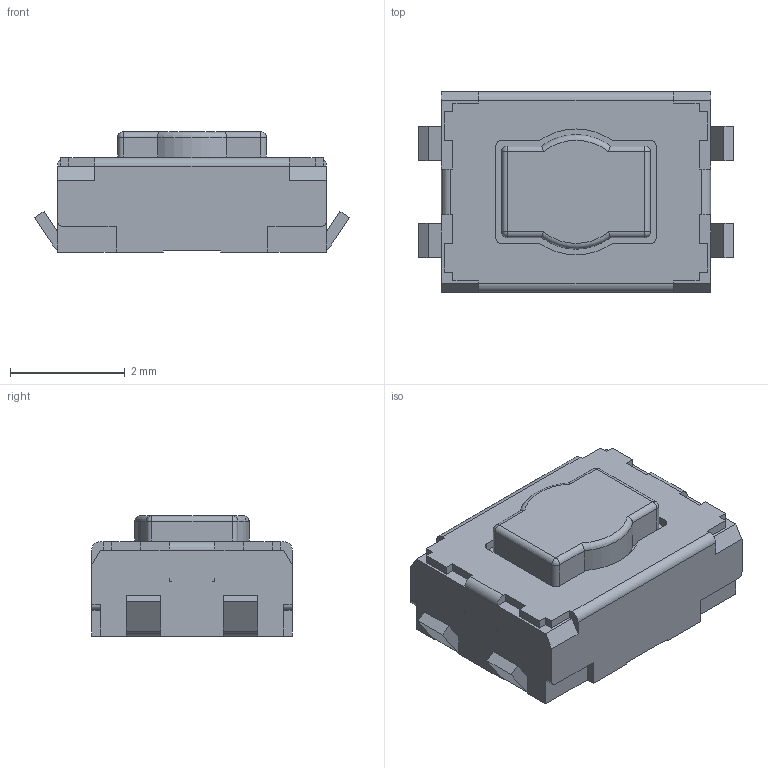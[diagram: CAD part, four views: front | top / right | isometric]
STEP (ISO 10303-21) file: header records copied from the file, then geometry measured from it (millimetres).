
FILE_DESCRIPTION(/* description */ ('STEP AP242 Edition 2','CAx-IF Rec.Pracs.---Representation and Presentation of Product Manufacturing Information (PMI)---4.0---2014-10-13','CAx-IF Rec.Pracs.---3D Tessellated Geometry---0.4---2014-09-14','2;1','CAx-IF Rec.Pracs.---User Defined Attributes---1.5---2016-08-15'),/* implementation_level */ '2;1');
FILE_NAME(/* name */ 'v2_assembly - SW_SPST_EVQP2_ShortPushTravel_H2.1mm_1',/* time_stamp */ '2026-05-19T16:26:07Z',/* author */ (''),/* organization */ (''),/* preprocessor_version */ 'ST-DEVELOPER v20',/* originating_system */ 'ONSHAPE BY PTC INC, 1.215',/* authorisation */ ' ');
FILE_SCHEMA (('AP242_MANAGED_MODEL_BASED_3D_ENGINEERING_MIM_LF { 1 0 10303 442 3 1 4 }'));
Length unit declared in the file: metre
Products named in the file (1): SW_SPST_EVQP2_ShortPushTravel_H2.1mm_1
Bounding box: 5.5 x 3.5 x 2.1 mm (x, y, z)
Volume: 28.6 mm3; surface area: 68.8 mm2
Topology: 1 solids, 1 shells, 156 faces, 420 edges, 268 vertices
Faces by surface type: plane 116, cylinder 34, sphere 4, torus 2
Entity records: 5458 total; most frequent: CARTESIAN_POINT 869, ORIENTED_EDGE 832, DIRECTION 800, EDGE_CURVE 416, LINE 338, VECTOR 338, VERTEX_POINT 268, AXIS2_PLACEMENT_3D 231
